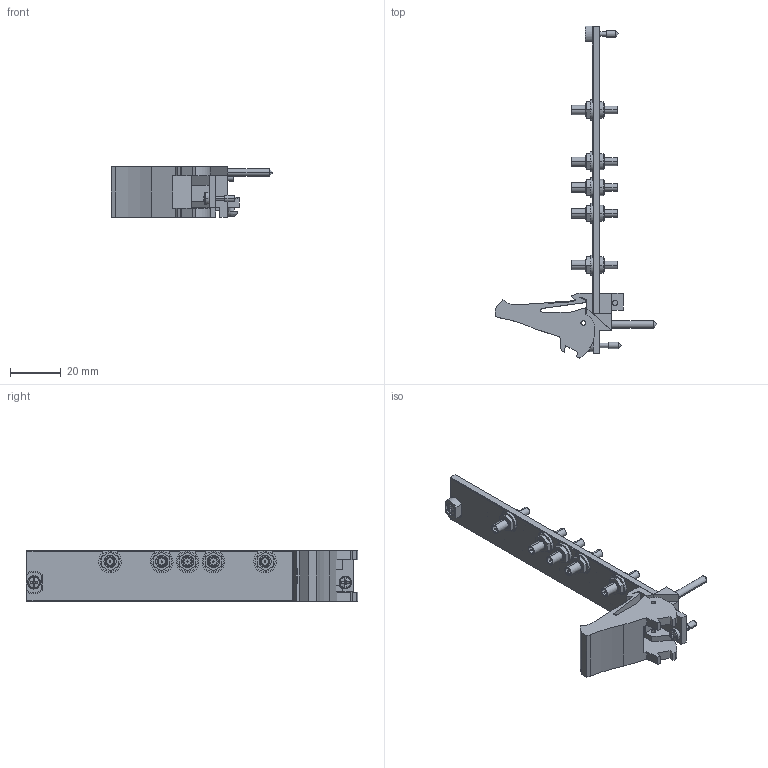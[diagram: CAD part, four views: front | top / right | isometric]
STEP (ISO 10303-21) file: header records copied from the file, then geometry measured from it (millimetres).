
FILE_DESCRIPTION((''),'2;1');
FILE_NAME('CU_PXI-2555','2009-10-05T',('jjorden'),(''),'PRO/ENGINEER BY PARAMETRIC TECHNOLOGY CORPORATION, 2006080','PRO/ENGINEER BY PARAMETRIC TECHNOLOGY CORPORATION, 2006080','');
FILE_SCHEMA(('CONFIG_CONTROL_DESIGN'));
Length unit declared in the file: inch
Products named in the file (1): CU_PXI-2555
Bounding box: 63.53 x 130.5 x 20.02 mm (x, y, z)
Volume: 15381.7 mm3; surface area: 14450.9 mm2
Topology: 1 solids, 1 shells, 542 faces, 1298 edges, 832 vertices
Faces by surface type: plane 328, cylinder 170, cone 24, sphere 8, torus 6, bspline 6
Entity records: 16151 total; most frequent: CARTESIAN_POINT 3184, DIRECTION 2755, ORIENTED_EDGE 2580, EDGE_CURVE 1290, AXIS2_PLACEMENT_3D 960, VERTEX_POINT 851, VECTOR 835, LINE 835
